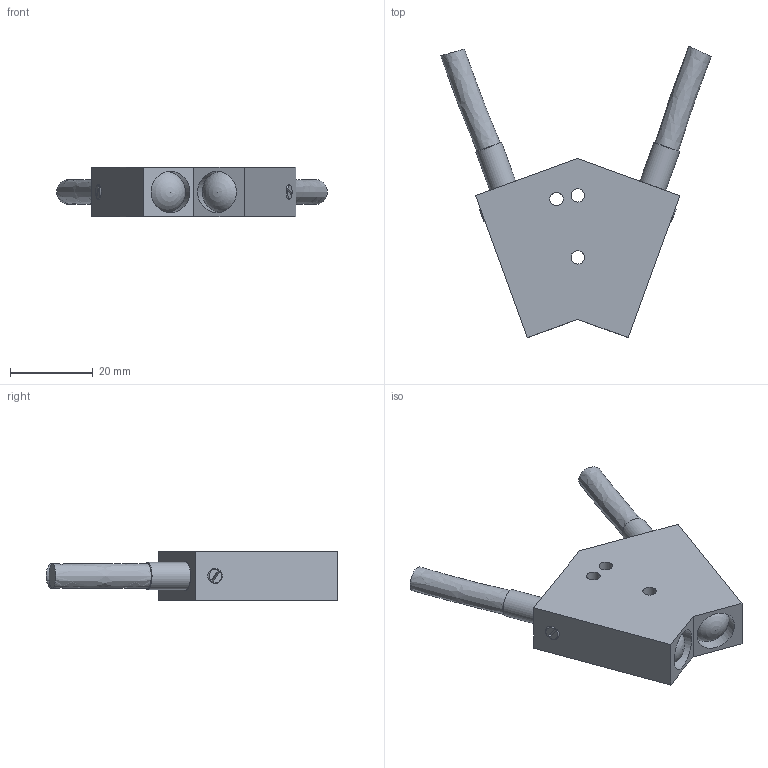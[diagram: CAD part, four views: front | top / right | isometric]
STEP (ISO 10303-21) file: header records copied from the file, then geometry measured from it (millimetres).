
FILE_DESCRIPTION((''),'2;1');
FILE_NAME('Q:\Konstruktion\E-Mail-Zeichnungen\STEP\KL-D-40_0713_00.stp','2013-01-21T15:12:57',('GuentherB'),(''),'Autodesk Inventor 2013','Autodesk Inventor 2013','');
FILE_SCHEMA(('AUTOMOTIVE_DESIGN { 1 0 10303 214 1 1 1 1 }'));
Length unit declared in the file: millimetre
Products named in the file (1): Bauteil6
Bounding box: 65.54 x 70.57 x 12 mm (x, y, z)
Volume: 18517.3 mm3; surface area: 7177.1 mm2
Topology: 1 solids, 3 shells, 59 faces, 137 edges, 92 vertices
Faces by surface type: plane 28, cylinder 17, cone 10, bspline 2, sphere 2
Full cylindrical faces by diameter (mm): 3.242 x3, 4.5 x2, 6 x2, 6.6 x2, 9.9 x2, 10 x2
Entity records: 1716 total; most frequent: CARTESIAN_POINT 358, DIRECTION 268, ORIENTED_EDGE 214, AXIS2_PLACEMENT_3D 113, EDGE_CURVE 107, EDGE_LOOP 94, VERTEX_POINT 83, FACE_OUTER_BOUND 59
